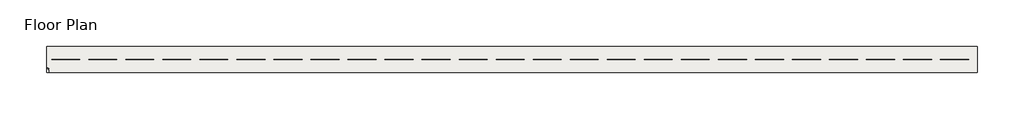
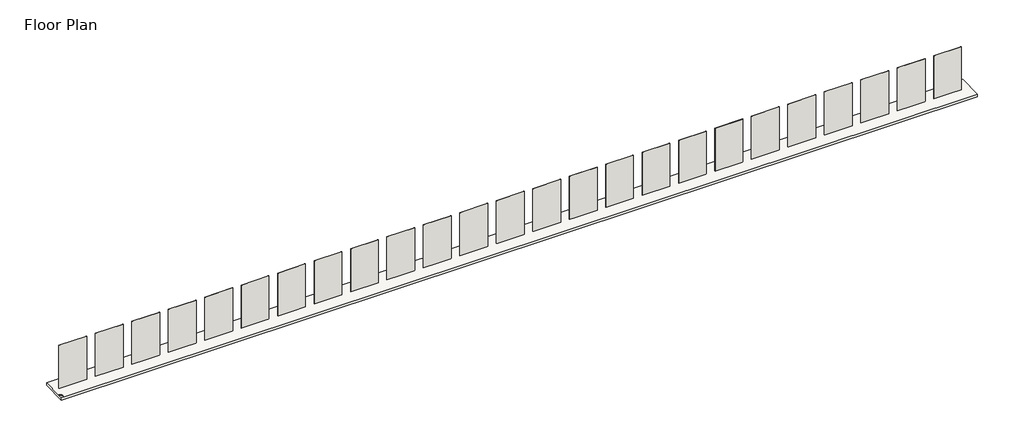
# One storey, incomplete: 25 walls, 1 slab.
"""IFC4 building model written with IfcOpenShell, lengths in millimetres."""

from ifc_helpers import new_model, si_unit, origin, origin_with_axes, place, context, project, spatial, polyline, outline, extrude, faceted_brep, element, save

model = new_model("IFC4")

# Units and contexts
model_context = context("Model", 3, world=origin())
ifc_project = project(units=[si_unit("LENGTHUNIT", "METRE", prefix="MILLI")], contexts=[model_context])

# Site, building, storey
site = spatial("IfcSite", under=ifc_project)
building = spatial("IfcBuilding", under=site)
storey = spatial("IfcBuildingStorey", under=building, Name="Floor Plan", Elevation=0.0)

# Slab
placement = place(None, origin())
element("IfcSlab", 1, ObjectType="Floor 1", at=placement, inside=storey, context=model_context, shape_type="Brep", body=[
    faceted_brep([(295309.564463, -1405.268292, -300.0), (194769.564463, -1405.268292, -300.0), (194769.564463, 1405.268292, -300.0), (295309.564463, 1405.268292, -300.0), (295309.564463, 1405.268292, 0.0), (194769.564463, 1405.268292, 0.0), (194769.564463, -838.8208533, 0.0), (194773.1211266, -836.7674126, 0.0), (194803.8301292, -854.4972635, 0.0), (194803.8301292, -887.6294851, 0.0), (194773.1211266, -905.3593361, 0.0), (194769.564463, -903.3058954, 0.0), (194769.564463, -1029.5470898, 0.0), (194779.1972272, -1035.1085689, 0.0), (194815.3908374, -1014.2121783, 0.0), (194862.4046401, -1041.3556099, 0.0), (194908.4091656, -1014.7948848, 0.0), (194967.6401701, -1048.9919211, 0.0), (194967.6401701, -1095.6301509, 0.0), (194996.9088101, -1078.7318937, 0.0), (195051.5578344, -1110.2835225, 0.0), (195051.5578344, -1149.3943664, 0.0), (195086.1988505, -1169.3943664, 0.0), (195086.1988505, -1405.268292, 0.0), (295309.564463, -1405.268292, 0.0), (194852.4226577, -913.8797767, 0.0), (194898.7748127, -940.6412058, 0.0), (194898.7748127, -995.8128392, 0.0), (194852.4226577, -1022.5742684, 0.0), (194806.0705027, -995.8128392, 0.0), (194806.0705027, -940.6412058, 0.0), (195002.5290945, -971.7658751, 0.0), (195033.3339718, -989.5510793, 0.0), (195033.3339718, -1022.1588741, 0.0), (195002.5290945, -1039.9440783, 0.0), (194971.7242172, -1022.1588741, 0.0), (194971.7242172, -989.5510793, 0.0), (195086.1988505, -1405.268292, -25.0), (194769.564463, -1405.268292, -25.0), (194769.564463, -1029.5470898, -25.0), (194769.564463, -903.3058954, -25.0), (194769.564463, -838.8208533, -25.0), (195086.1988505, -1169.3943664, -25.0), (195051.5578344, -1149.3943664, -25.0), (195051.5578344, -1110.2835225, -25.0), (194996.9088101, -1078.7318937, -25.0), (194967.6401701, -1095.6301509, -25.0), (194967.6401701, -1048.9919211, -25.0), (194908.4091656, -1014.7948848, -25.0), (194862.4046401, -1041.3556099, -25.0), (194815.3908374, -1014.2121783, -25.0), (194779.1972272, -1035.1085689, -25.0), (194898.7748127, -940.6412058, -25.0), (194852.4226577, -913.8797767, -25.0), (194806.0705027, -940.6412058, -25.0), (194806.0705027, -995.8128392, -25.0), (194852.4226577, -1022.5742684, -25.0), (194898.7748127, -995.8128392, -25.0), (194803.8301292, -854.4972635, -25.0), (194773.1211266, -836.7674126, -25.0), (194773.1211266, -905.3593361, -25.0), (194803.8301292, -887.6294851, -25.0), (195033.3339718, -989.5510793, -25.0), (195002.5290945, -971.7658751, -25.0), (194971.7242172, -989.5510793, -25.0), (194971.7242172, -1022.1588741, -25.0), (195002.5290945, -1039.9440783, -25.0), (195033.3339718, -1022.1588741, -25.0)], [[[0, 1, 2, 3]], [[4, 5, 6, 7, 8, 9, 10, 11, 12, 13, 14, 15, 16, 17, 18, 19, 20, 21, 22, 23, 24], [25, 26, 27, 28, 29, 30], [31, 32, 33, 34, 35, 36]], [[1, 0, 24, 23, 37, 38]], [[2, 1, 38, 39, 12, 11, 40, 41, 6, 5]], [[3, 2, 5, 4]], [[42, 43, 44, 45, 46, 47, 48, 49, 50, 51, 39, 38, 37]], [[52, 53, 54, 55, 56, 57]], [[58, 59, 41, 40, 60, 61]], [[62, 63, 64, 65, 66, 67]], [[42, 37, 23, 22]], [[43, 42, 22, 21]], [[44, 43, 21, 20]], [[45, 44, 20, 19]], [[46, 45, 19, 18]], [[47, 46, 18, 17]], [[48, 47, 17, 16]], [[49, 48, 16, 15]], [[50, 49, 15, 14]], [[51, 50, 14, 13]], [[39, 51, 13, 12]], [[53, 52, 26, 25]], [[54, 53, 25, 30]], [[55, 54, 30, 29]], [[56, 55, 29, 28]], [[57, 56, 28, 27]], [[52, 57, 27, 26]], [[59, 58, 8, 7]], [[41, 59, 7, 6]], [[60, 40, 11, 10]], [[61, 60, 10, 9]], [[58, 61, 9, 8]], [[63, 62, 32, 31]], [[64, 63, 31, 36]], [[65, 64, 36, 35]], [[66, 65, 35, 34]], [[67, 66, 34, 33]], [[62, 67, 33, 32]], [[0, 3, 4, 24]]]),
])

# Walls
element("IfcWall", 2, ObjectType="Cemintel Surround Whiteish Base 8mm x 1200mm x 3000mm", at=placement, inside=storey, context=model_context, shape_type="SweptSolid", body=[
    extrude(outline(polyline([(198366.0922319, -4.5), (195318.0922319, -4.5), (195318.0922319, 3.5), (198366.0922319, 3.5), (198366.0922319, -4.5)])), origin_with_axes(), (0.0, 0.0, 1.0), 5000.0),
])
element("IfcWall", 3, ObjectType="Cemintel Surround Whiteish String 8mm x 1200mm x 3000mm", at=placement, inside=storey, context=model_context, shape_type="SweptSolid", body=[
    extrude(outline(polyline([(202366.0922319, -4.5), (199318.0922319, -4.5), (199318.0922319, 3.5), (202366.0922319, 3.5), (202366.0922319, -4.5)])), origin_with_axes(), (0.0, 0.0, 1.0), 5000.0),
])
element("IfcWall", 4, ObjectType="Cemintel Surround Whiteish Leather 8mm x 1200mm x 3000mm", at=placement, inside=storey, context=model_context, shape_type="SweptSolid", body=[
    extrude(outline(polyline([(206366.0922319, -4.5), (203318.0922319, -4.5), (203318.0922319, 3.5), (206366.0922319, 3.5), (206366.0922319, -4.5)])), origin_with_axes(), (0.0, 0.0, 1.0), 5000.0),
])
element("IfcWall", 5, ObjectType="Cemintel Surround Whiteish Metal 8mm x 1200mm x 3000mm", at=placement, inside=storey, context=model_context, shape_type="SweptSolid", body=[
    extrude(outline(polyline([(210366.0922319, -4.5), (207318.0922319, -4.5), (207318.0922319, 3.5), (210366.0922319, 3.5), (210366.0922319, -4.5)])), origin_with_axes(), (0.0, 0.0, 1.0), 5000.0),
])
element("IfcWall", 6, ObjectType="Cemintel Surround Whiteish Marl 8mm x 1200mm x 3000mm", at=placement, inside=storey, context=model_context, shape_type="SweptSolid", body=[
    extrude(outline(polyline([(214366.0922319, -4.5), (211318.0922319, -4.5), (211318.0922319, 3.5), (214366.0922319, 3.5), (214366.0922319, -4.5)])), origin_with_axes(), (0.0, 0.0, 1.0), 5000.0),
])
element("IfcWall", 7, ObjectType="Cemintel Surround Greyish Base 8mm x 1200mm x 3000mm", at=placement, inside=storey, context=model_context, shape_type="SweptSolid", body=[
    extrude(outline(polyline([(218366.0922319, -4.5), (215318.0922319, -4.5), (215318.0922319, 3.5), (218366.0922319, 3.5), (218366.0922319, -4.5)])), origin_with_axes(), (0.0, 0.0, 1.0), 5000.0),
])
element("IfcWall", 8, ObjectType="Cemintel Surround Greyish String 8mm x 1200mm x 3000mm", at=placement, inside=storey, context=model_context, shape_type="SweptSolid", body=[
    extrude(outline(polyline([(222366.0922319, -4.5), (219318.0922319, -4.5), (219318.0922319, 3.5), (222366.0922319, 3.5), (222366.0922319, -4.5)])), origin_with_axes(), (0.0, 0.0, 1.0), 5000.0),
])
element("IfcWall", 9, ObjectType="Cemintel Surround Greyish Leather 8mm x 1200mm x 3000mm", at=placement, inside=storey, context=model_context, shape_type="SweptSolid", body=[
    extrude(outline(polyline([(226366.0922319, -4.5), (223318.0922319, -4.5), (223318.0922319, 3.5), (226366.0922319, 3.5), (226366.0922319, -4.5)])), origin_with_axes(), (0.0, 0.0, 1.0), 5000.0),
])
element("IfcWall", 10, ObjectType="Cemintel Surround Greyish Metal 8mm x 1200mm x 3000mm", at=placement, inside=storey, context=model_context, shape_type="SweptSolid", body=[
    extrude(outline(polyline([(230366.0922319, -4.5), (227318.0922319, -4.5), (227318.0922319, 3.5), (230366.0922319, 3.5), (230366.0922319, -4.5)])), origin_with_axes(), (0.0, 0.0, 1.0), 5000.0),
])
element("IfcWall", 11, ObjectType="Cemintel Surround Greyish Marl 8mm x 1200mm x 3000mm", at=placement, inside=storey, context=model_context, shape_type="SweptSolid", body=[
    extrude(outline(polyline([(234366.0922319, -4.5), (231318.0922319, -4.5), (231318.0922319, 3.5), (234366.0922319, 3.5), (234366.0922319, -4.5)])), origin_with_axes(), (0.0, 0.0, 1.0), 5000.0),
])
element("IfcWall", 12, ObjectType="Cemintel Surround Blueish Base 8mm x 1200mm x 3000mm", at=placement, inside=storey, context=model_context, shape_type="SweptSolid", body=[
    extrude(outline(polyline([(238366.0922319, -4.5), (235318.0922319, -4.5), (235318.0922319, 3.5), (238366.0922319, 3.5), (238366.0922319, -4.5)])), origin_with_axes(), (0.0, 0.0, 1.0), 5000.0),
])
element("IfcWall", 13, ObjectType="Cemintel Surround Blueish String 8mm x 1200mm x 3000mm", at=placement, inside=storey, context=model_context, shape_type="SweptSolid", body=[
    extrude(outline(polyline([(242366.0922319, -4.5), (239318.0922319, -4.5), (239318.0922319, 3.5), (242366.0922319, 3.5), (242366.0922319, -4.5)])), origin_with_axes(), (0.0, 0.0, 1.0), 5000.0),
])
element("IfcWall", 14, ObjectType="Cemintel Surround Blueish Leather 8mm x 1200mm x 3000mm", at=placement, inside=storey, context=model_context, shape_type="SweptSolid", body=[
    extrude(outline(polyline([(246366.0922319, -4.5), (243318.0922319, -4.5), (243318.0922319, 3.5), (246366.0922319, 3.5), (246366.0922319, -4.5)])), origin_with_axes(), (0.0, 0.0, 1.0), 5000.0),
])
element("IfcWall", 15, ObjectType="Cemintel Surround Blueish Metal 8mm x 1200mm x 3000mm", at=placement, inside=storey, context=model_context, shape_type="SweptSolid", body=[
    extrude(outline(polyline([(250366.0922319, -4.5), (247318.0922319, -4.5), (247318.0922319, 3.5), (250366.0922319, 3.5), (250366.0922319, -4.5)])), origin_with_axes(), (0.0, 0.0, 1.0), 5000.0),
])
element("IfcWall", 16, ObjectType="Cemintel Surround Blueish Marl 8mm x 1200mm x 3000mm", at=placement, inside=storey, context=model_context, shape_type="SweptSolid", body=[
    extrude(outline(polyline([(254366.0922319, -4.5), (251318.0922319, -4.5), (251318.0922319, 3.5), (254366.0922319, 3.5), (254366.0922319, -4.5)])), origin_with_axes(), (0.0, 0.0, 1.0), 5000.0),
])
element("IfcWall", 17, ObjectType="Cemintel Surround Greenish Base 8mm x 1200mm x 3000mm", at=placement, inside=storey, context=model_context, shape_type="SweptSolid", body=[
    extrude(outline(polyline([(258366.0922319, -4.5), (255318.0922319, -4.5), (255318.0922319, 3.5), (258366.0922319, 3.5), (258366.0922319, -4.5)])), origin_with_axes(), (0.0, 0.0, 1.0), 5000.0),
])
element("IfcWall", 18, ObjectType="Cemintel Surround Greenish String 8mm x 1200mm x 3000mm", at=placement, inside=storey, context=model_context, shape_type="SweptSolid", body=[
    extrude(outline(polyline([(262366.0922319, -4.5), (259318.0922319, -4.5), (259318.0922319, 3.5), (262366.0922319, 3.5), (262366.0922319, -4.5)])), origin_with_axes(), (0.0, 0.0, 1.0), 5000.0),
])
element("IfcWall", 19, ObjectType="Cemintel Surround Greenish Leather 8mm x 1200mm x 3000mm", at=placement, inside=storey, context=model_context, shape_type="SweptSolid", body=[
    extrude(outline(polyline([(266366.0922319, -4.5), (263318.0922319, -4.5), (263318.0922319, 3.5), (266366.0922319, 3.5), (266366.0922319, -4.5)])), origin_with_axes(), (0.0, 0.0, 1.0), 5000.0),
])
element("IfcWall", 20, ObjectType="Cemintel Surround Greenish Metal 8mm x 1200mm x 3000mm", at=placement, inside=storey, context=model_context, shape_type="SweptSolid", body=[
    extrude(outline(polyline([(270366.0922319, -4.5), (267318.0922319, -4.5), (267318.0922319, 3.5), (270366.0922319, 3.5), (270366.0922319, -4.5)])), origin_with_axes(), (0.0, 0.0, 1.0), 5000.0),
])
element("IfcWall", 21, ObjectType="Cemintel Surround Greenish Marl 8mm x 1200mm x 3000mm", at=placement, inside=storey, context=model_context, shape_type="SweptSolid", body=[
    extrude(outline(polyline([(274366.0922319, -4.5), (271318.0922319, -4.5), (271318.0922319, 3.5), (274366.0922319, 3.5), (274366.0922319, -4.5)])), origin_with_axes(), (0.0, 0.0, 1.0), 5000.0),
])
element("IfcWall", 22, ObjectType="Cemintel Surround Blackish Base 8mm x 1200mm x 3000mm", at=placement, inside=storey, context=model_context, shape_type="SweptSolid", body=[
    extrude(outline(polyline([(278366.0922319, -4.5), (275318.0922319, -4.5), (275318.0922319, 3.5), (278366.0922319, 3.5), (278366.0922319, -4.5)])), origin_with_axes(), (0.0, 0.0, 1.0), 5000.0),
])
element("IfcWall", 23, ObjectType="Cemintel Surround Blackish String 8mm x 1200mm x 3000mm", at=placement, inside=storey, context=model_context, shape_type="SweptSolid", body=[
    extrude(outline(polyline([(282366.0922319, -4.5), (279318.0922319, -4.5), (279318.0922319, 3.5), (282366.0922319, 3.5), (282366.0922319, -4.5)])), origin_with_axes(), (0.0, 0.0, 1.0), 5000.0),
])
element("IfcWall", 24, ObjectType="Cemintel Surround Blackish Leather 8mm x 1200mm x 3000mm", at=placement, inside=storey, context=model_context, shape_type="SweptSolid", body=[
    extrude(outline(polyline([(286366.0922319, -4.5), (283318.0922319, -4.5), (283318.0922319, 3.5), (286366.0922319, 3.5), (286366.0922319, -4.5)])), origin_with_axes(), (0.0, 0.0, 1.0), 5000.0),
])
element("IfcWall", 25, ObjectType="Cemintel Surround Blackish Metal 8mm x 1200mm x 3000mm", at=placement, inside=storey, context=model_context, shape_type="SweptSolid", body=[
    extrude(outline(polyline([(290366.0922319, -4.5), (287318.0922319, -4.5), (287318.0922319, 3.5), (290366.0922319, 3.5), (290366.0922319, -4.5)])), origin_with_axes(), (0.0, 0.0, 1.0), 5000.0),
])
element("IfcWall", 26, ObjectType="Cemintel Surround Blackish Marl 8mm x 1200mm x 3000mm", at=placement, inside=storey, context=model_context, shape_type="SweptSolid", body=[
    extrude(outline(polyline([(294366.0922319, -4.5), (291318.0922319, -4.5), (291318.0922319, 3.5), (294366.0922319, 3.5), (294366.0922319, -4.5)])), origin_with_axes(), (0.0, 0.0, 1.0), 5000.0),
])

save(model, "model.ifc")
